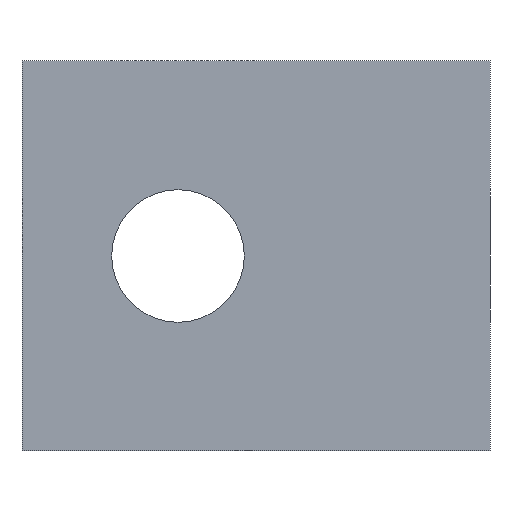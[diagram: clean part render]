
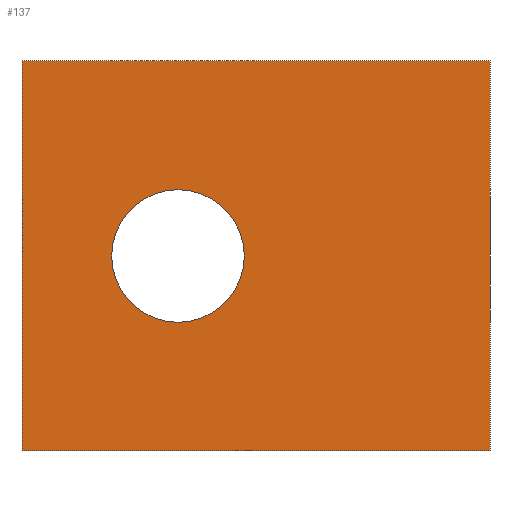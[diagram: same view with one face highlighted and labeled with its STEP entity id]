
A CAD part, front view. The second image highlights one B-rep face of the part: STEP entity #137.
In plain terms, the highlighted planar face has unit normal (0, -1, 0).
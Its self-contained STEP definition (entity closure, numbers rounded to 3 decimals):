
#21 = EDGE_CURVE('',#22,#24,#26,.T.);
#22 = VERTEX_POINT('',#23);
#23 = CARTESIAN_POINT('',(19.,17.,-40.));
#24 = VERTEX_POINT('',#25);
#25 = CARTESIAN_POINT('',(19.,17.,-30.));
#26 = SURFACE_CURVE('',#27,(#31,#43),.PCURVE_S1.);
#27 = LINE('',#28,#29);
#28 = CARTESIAN_POINT('',(19.,17.,-40.));
#29 = VECTOR('',#30,1.);
#30 = DIRECTION('',(0.,0.,1.));
#31 = PCURVE('',#32,#37);
#32 = PLANE('',#33);
#33 = AXIS2_PLACEMENT_3D('',#34,#35,#36);
#34 = CARTESIAN_POINT('',(19.,17.,-40.));
#35 = DIRECTION('',(1.,0.,0.));
#36 = DIRECTION('',(0.,0.,1.));
#37 = DEFINITIONAL_REPRESENTATION('',(#38),#42);
#38 = LINE('',#39,#40);
#39 = CARTESIAN_POINT('',(0.,0.));
#40 = VECTOR('',#41,1.);
#41 = DIRECTION('',(1.,0.));
#42 = ( GEOMETRIC_REPRESENTATION_CONTEXT(2) 
PARAMETRIC_REPRESENTATION_CONTEXT() REPRESENTATION_CONTEXT('2D SPACE',''
  ) );
#43 = PCURVE('',#44,#49);
#44 = PLANE('',#45);
#45 = AXIS2_PLACEMENT_3D('',#46,#47,#48);
#46 = CARTESIAN_POINT('',(19.,17.,-40.));
#47 = DIRECTION('',(0.,1.,0.));
#48 = DIRECTION('',(0.,0.,1.));
#49 = DEFINITIONAL_REPRESENTATION('',(#50),#54);
#50 = LINE('',#51,#52);
#51 = CARTESIAN_POINT('',(0.,0.));
#52 = VECTOR('',#53,1.);
#53 = DIRECTION('',(1.,0.));
#54 = ( GEOMETRIC_REPRESENTATION_CONTEXT(2) 
PARAMETRIC_REPRESENTATION_CONTEXT() REPRESENTATION_CONTEXT('2D SPACE',''
  ) );
#72 = PLANE('',#73);
#73 = AXIS2_PLACEMENT_3D('',#74,#75,#76);
#74 = CARTESIAN_POINT('',(19.,17.,-40.));
#75 = DIRECTION('',(0.,0.,1.));
#76 = DIRECTION('',(1.,0.,0.));
#126 = PLANE('',#127);
#127 = AXIS2_PLACEMENT_3D('',#128,#129,#130);
#128 = CARTESIAN_POINT('',(19.,17.,-30.));
#129 = DIRECTION('',(0.,0.,1.));
#130 = DIRECTION('',(1.,0.,0.));
#137 = ADVANCED_FACE('',(#138,#213),#44,.F.);
#138 = FACE_BOUND('',#139,.F.);
#139 = EDGE_LOOP('',(#140,#163,#164,#187));
#140 = ORIENTED_EDGE('',*,*,#141,.F.);
#141 = EDGE_CURVE('',#22,#142,#144,.T.);
#142 = VERTEX_POINT('',#143);
#143 = CARTESIAN_POINT('',(31.,17.,-40.));
#144 = SURFACE_CURVE('',#145,(#149,#156),.PCURVE_S1.);
#145 = LINE('',#146,#147);
#146 = CARTESIAN_POINT('',(19.,17.,-40.));
#147 = VECTOR('',#148,1.);
#148 = DIRECTION('',(1.,0.,0.));
#149 = PCURVE('',#44,#150);
#150 = DEFINITIONAL_REPRESENTATION('',(#151),#155);
#151 = LINE('',#152,#153);
#152 = CARTESIAN_POINT('',(0.,0.));
#153 = VECTOR('',#154,1.);
#154 = DIRECTION('',(0.,1.));
#155 = ( GEOMETRIC_REPRESENTATION_CONTEXT(2) 
PARAMETRIC_REPRESENTATION_CONTEXT() REPRESENTATION_CONTEXT('2D SPACE',''
  ) );
#156 = PCURVE('',#72,#157);
#157 = DEFINITIONAL_REPRESENTATION('',(#158),#162);
#158 = LINE('',#159,#160);
#159 = CARTESIAN_POINT('',(0.,0.));
#160 = VECTOR('',#161,1.);
#161 = DIRECTION('',(1.,0.));
#162 = ( GEOMETRIC_REPRESENTATION_CONTEXT(2) 
PARAMETRIC_REPRESENTATION_CONTEXT() REPRESENTATION_CONTEXT('2D SPACE',''
  ) );
#163 = ORIENTED_EDGE('',*,*,#21,.T.);
#164 = ORIENTED_EDGE('',*,*,#165,.F.);
#165 = EDGE_CURVE('',#166,#24,#168,.T.);
#166 = VERTEX_POINT('',#167);
#167 = CARTESIAN_POINT('',(31.,17.,-30.));
#168 = SURFACE_CURVE('',#169,(#173,#180),.PCURVE_S1.);
#169 = LINE('',#170,#171);
#170 = CARTESIAN_POINT('',(31.,17.,-30.));
#171 = VECTOR('',#172,1.);
#172 = DIRECTION('',(-1.,0.,0.));
#173 = PCURVE('',#44,#174);
#174 = DEFINITIONAL_REPRESENTATION('',(#175),#179);
#175 = LINE('',#176,#177);
#176 = CARTESIAN_POINT('',(10.,12.));
#177 = VECTOR('',#178,1.);
#178 = DIRECTION('',(0.,-1.));
#179 = ( GEOMETRIC_REPRESENTATION_CONTEXT(2) 
PARAMETRIC_REPRESENTATION_CONTEXT() REPRESENTATION_CONTEXT('2D SPACE',''
  ) );
#180 = PCURVE('',#126,#181);
#181 = DEFINITIONAL_REPRESENTATION('',(#182),#186);
#182 = LINE('',#183,#184);
#183 = CARTESIAN_POINT('',(12.,0.));
#184 = VECTOR('',#185,1.);
#185 = DIRECTION('',(-1.,0.));
#186 = ( GEOMETRIC_REPRESENTATION_CONTEXT(2) 
PARAMETRIC_REPRESENTATION_CONTEXT() REPRESENTATION_CONTEXT('2D SPACE',''
  ) );
#187 = ORIENTED_EDGE('',*,*,#188,.F.);
#188 = EDGE_CURVE('',#142,#166,#189,.T.);
#189 = SURFACE_CURVE('',#190,(#194,#201),.PCURVE_S1.);
#190 = LINE('',#191,#192);
#191 = CARTESIAN_POINT('',(31.,17.,-40.));
#192 = VECTOR('',#193,1.);
#193 = DIRECTION('',(0.,0.,1.));
#194 = PCURVE('',#44,#195);
#195 = DEFINITIONAL_REPRESENTATION('',(#196),#200);
#196 = LINE('',#197,#198);
#197 = CARTESIAN_POINT('',(0.,12.));
#198 = VECTOR('',#199,1.);
#199 = DIRECTION('',(1.,0.));
#200 = ( GEOMETRIC_REPRESENTATION_CONTEXT(2) 
PARAMETRIC_REPRESENTATION_CONTEXT() REPRESENTATION_CONTEXT('2D SPACE',''
  ) );
#201 = PCURVE('',#202,#207);
#202 = PLANE('',#203);
#203 = AXIS2_PLACEMENT_3D('',#204,#205,#206);
#204 = CARTESIAN_POINT('',(31.,17.,-40.));
#205 = DIRECTION('',(1.,0.,0.));
#206 = DIRECTION('',(0.,0.,1.));
#207 = DEFINITIONAL_REPRESENTATION('',(#208),#212);
#208 = LINE('',#209,#210);
#209 = CARTESIAN_POINT('',(0.,0.));
#210 = VECTOR('',#211,1.);
#211 = DIRECTION('',(1.,0.));
#212 = ( GEOMETRIC_REPRESENTATION_CONTEXT(2) 
PARAMETRIC_REPRESENTATION_CONTEXT() REPRESENTATION_CONTEXT('2D SPACE',''
  ) );
#213 = FACE_BOUND('',#214,.F.);
#214 = EDGE_LOOP('',(#215));
#215 = ORIENTED_EDGE('',*,*,#216,.F.);
#216 = EDGE_CURVE('',#217,#217,#219,.T.);
#217 = VERTEX_POINT('',#218);
#218 = CARTESIAN_POINT('',(24.7,17.,-35.));
#219 = SURFACE_CURVE('',#220,(#225,#232),.PCURVE_S1.);
#220 = CIRCLE('',#221,1.7);
#221 = AXIS2_PLACEMENT_3D('',#222,#223,#224);
#222 = CARTESIAN_POINT('',(23.,17.,-35.));
#223 = DIRECTION('',(-0.,1.,0.));
#224 = DIRECTION('',(1.,0.,0.));
#225 = PCURVE('',#44,#226);
#226 = DEFINITIONAL_REPRESENTATION('',(#227),#231);
#227 = CIRCLE('',#228,1.7);
#228 = AXIS2_PLACEMENT_2D('',#229,#230);
#229 = CARTESIAN_POINT('',(5.,4.));
#230 = DIRECTION('',(0.,1.));
#231 = ( GEOMETRIC_REPRESENTATION_CONTEXT(2) 
PARAMETRIC_REPRESENTATION_CONTEXT() REPRESENTATION_CONTEXT('2D SPACE',''
  ) );
#232 = PCURVE('',#233,#238);
#233 = CYLINDRICAL_SURFACE('',#234,1.7);
#234 = AXIS2_PLACEMENT_3D('',#235,#236,#237);
#235 = CARTESIAN_POINT('',(23.,22.,-35.));
#236 = DIRECTION('',(-0.,1.,-0.));
#237 = DIRECTION('',(1.,0.,0.));
#238 = DEFINITIONAL_REPRESENTATION('',(#239),#243);
#239 = LINE('',#240,#241);
#240 = CARTESIAN_POINT('',(-6.283,-5.));
#241 = VECTOR('',#242,1.);
#242 = DIRECTION('',(1.,-0.));
#243 = ( GEOMETRIC_REPRESENTATION_CONTEXT(2) 
PARAMETRIC_REPRESENTATION_CONTEXT() REPRESENTATION_CONTEXT('2D SPACE',''
  ) );
